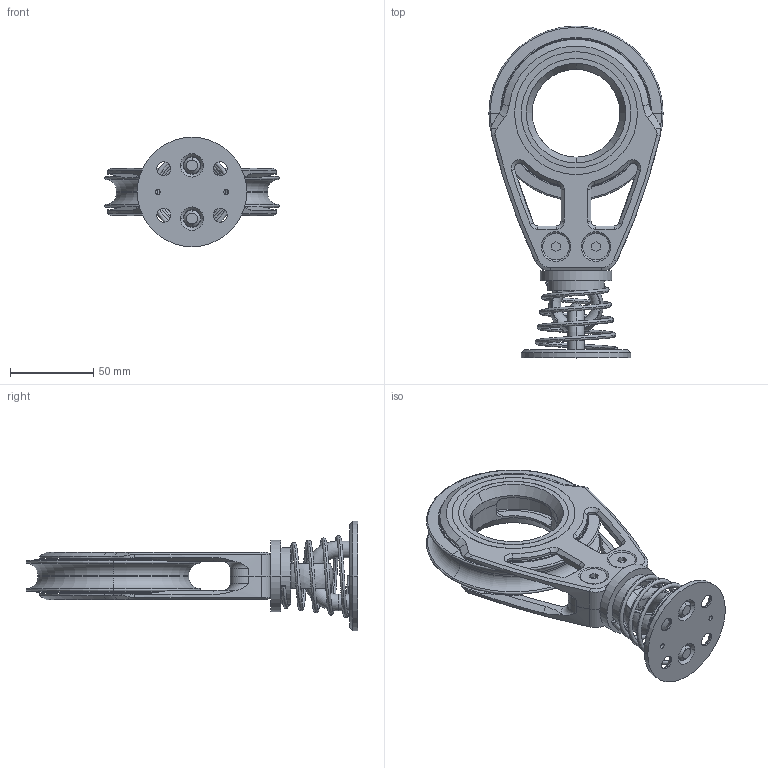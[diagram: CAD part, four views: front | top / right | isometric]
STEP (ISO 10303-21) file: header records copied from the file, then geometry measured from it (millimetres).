
FILE_DESCRIPTION((''),'2;1');
FILE_NAME('29901100_ASM','2005-05-31T',('NBelton'),(''),'PRO/ENGINEER BY PARAMETRIC TECHNOLOGY CORPORATION, 2004320','PRO/ENGINEER BY PARAMETRIC TECHNOLOGY CORPORATION, 2004320','');
FILE_SCHEMA(('CONFIG_CONTROL_DESIGN'));
Length unit declared in the file: millimetre
Products named in the file (11): 25001204; 25001205; 25001210; 28001298_ASM; 25001426; 25000620; 25000621; 25000623; LSK3918; B5903-A4; 29901100_ASM
Assembly tree (13 placements, depth 3):
  29901100_ASM
    28001298_ASM
      25001204
      25001205
      25001210
    25001426
    25000620
    25000621
    25000623
    LSK3918
    B5903-A4  x4
Bounding box: 105 x 199.9 x 66 mm (x, y, z)
Volume: 165553.6 mm3; surface area: 93427.7 mm2
Topology: 12 solids, 12 shells, 469 faces, 1168 edges, 725 vertices
Faces by surface type: cylinder 170, plane 131, cone 106, torus 52, bspline 8, sphere 2
Entity records: 16241 total; most frequent: CARTESIAN_POINT 5686, DIRECTION 2306, ORIENTED_EDGE 2116, EDGE_CURVE 1058, AXIS2_PLACEMENT_3D 949, VERTEX_POINT 659, CIRCLE 512, EDGE_LOOP 461
